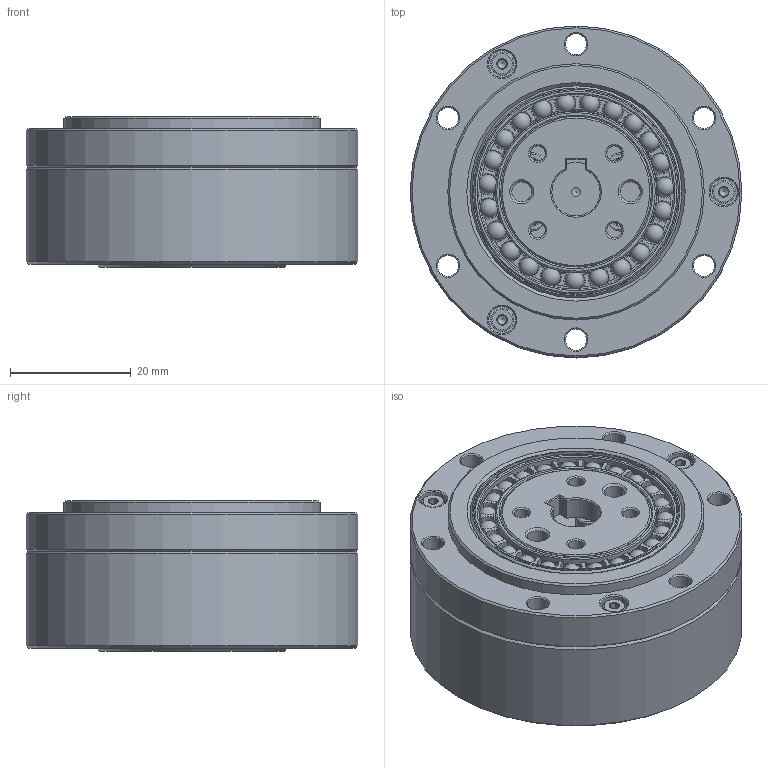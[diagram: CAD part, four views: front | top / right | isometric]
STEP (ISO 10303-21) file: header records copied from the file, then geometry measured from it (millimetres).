
FILE_DESCRIPTION(/* description */ (''),/* implementation_level */ '2;1');
FILE_NAME(/* name */ 'LSD-14-XX-U-I-φ8.stp',/* time_stamp */ '2023-07-03T09:24:05+08:00',/* author */ (''),/* organization */ (''),/* preprocessor_version */ 'ST-DEVELOPER v16.7',/* originating_system */ 'SIEMENS PLM Software NX 12.0',/* authorisation */ '');
FILE_SCHEMA (('AUTOMOTIVE_DESIGN { 1 0 10303 214 3 1 1 1 }'));
Length unit declared in the file: millimetre
Products named in the file (12): EB253406-14KC-46; EB253406-14KD-01; TC-31.5x40x4; O-43x0.5; 发生器LSD-14-φ8; GB-T70.1-2000,M3x6; GB-T70.1-2000,M2x8; 柔轮LSD-14; 刚轮LSD-14; EB253406-14KD; 交叉轴承LSD-14; LSD-14-XX-U-I-φ8
Assembly tree (18 placements, depth 3):
  LSD-14-XX-U-I-φ8
    交叉轴承LSD-14
      TC-31.5x40x4
    刚轮LSD-14
    柔轮LSD-14
    GB-T70.1-2000,M2x8  x3
    GB-T70.1-2000,M3x6  x6
    EB253406-14KD
      EB253406-14KD-01
      EB253406-14KC-46
    发生器LSD-14-φ8
    O-43x0.5
Bounding box: 55 x 55 x 25 mm (x, y, z)
Volume: 44038.8 mm3; surface area: 32356.4 mm2
Topology: 42 solids, 42 shells, 698 faces, 1598 edges, 967 vertices
Faces by surface type: plane 236, cone 191, cylinder 159, torus 88, sphere 23, revolution 1
Full cylindrical faces by diameter (mm): 1.6 x3, 1.886 x3, 2.5 x23, 2.874 x6, 3.3 x2, 3.5 x18, 3.8 x3, 4.5 x9, 9.8 x1, 11 x2, 11.7 x1, 12 x1, 12.7 x1, 22.4 x1, 24.07 x1, 25.07 x2, 26.71 x2, 27 x1, 27.45 x1, 29 x1, 30.8 x1, 31.5 x3, 32.15 x1, 32.36 x2, 33.92 x2, 34.41 x1, 35.03 x1, 35.16 x1, 35.6 x1, 36.4 x2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
Entity records: 14653 total; most frequent: CARTESIAN_POINT 3638, DIRECTION 2369, ORIENTED_EDGE 1688, AXIS2_PLACEMENT_3D 1110, EDGE_CURVE 844, EDGE_LOOP 826, VERTEX_POINT 699, FACE_BOUND 685
